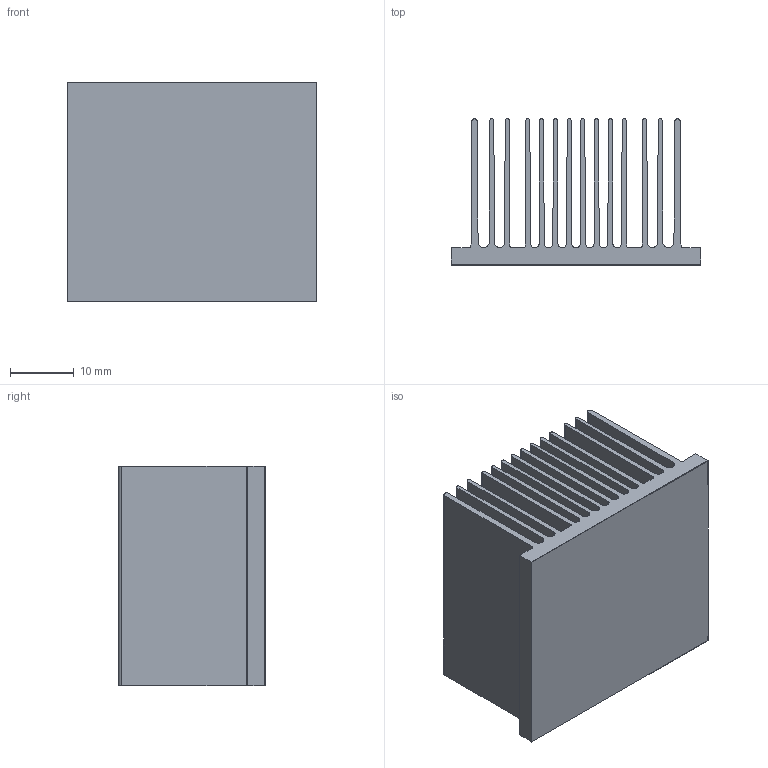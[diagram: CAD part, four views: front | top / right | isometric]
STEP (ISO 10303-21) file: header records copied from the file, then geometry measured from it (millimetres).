
FILE_DESCRIPTION (( 'STEP AP214' ), '1' );
FILE_NAME ('INH40001-23-2.6.STEP', '2023-02-20T19:47:38', ( '' ), ( '' ), 'SwSTEP 2.0', 'SolidWorks 2020', '' );
FILE_SCHEMA (( 'AUTOMOTIVE_DESIGN' ));
Length unit declared in the file: millimetre
Products named in the file (1): INH40001-23-2.6
Bounding box: 39.12 x 22.99 x 34.54 mm (x, y, z)
Volume: 11162.5 mm3; surface area: 25339.7 mm2
Topology: 2 solids, 2 shells, 96 faces, 276 edges, 184 vertices
Faces by surface type: plane 54, cylinder 42
Entity records: 4263 total; most frequent: CARTESIAN_POINT 557, DIRECTION 554, ORIENTED_EDGE 552, EDGE_CURVE 276, VECTOR 192, LINE 192, VERTEX_POINT 184, AXIS2_PLACEMENT_3D 181
